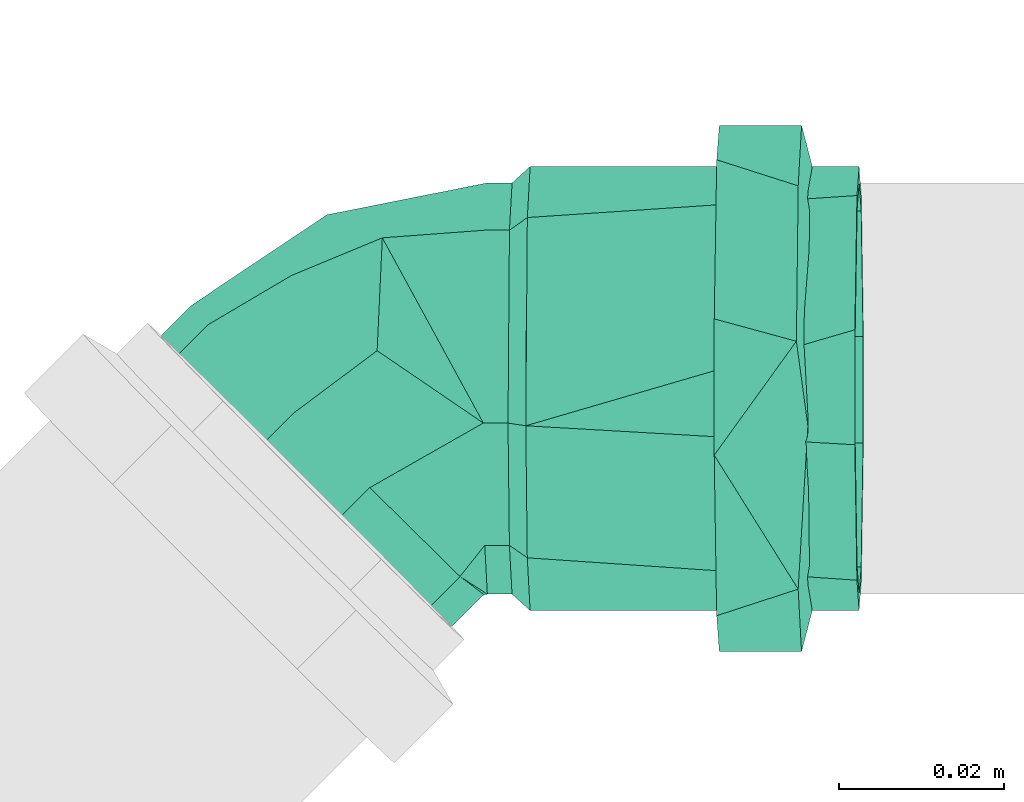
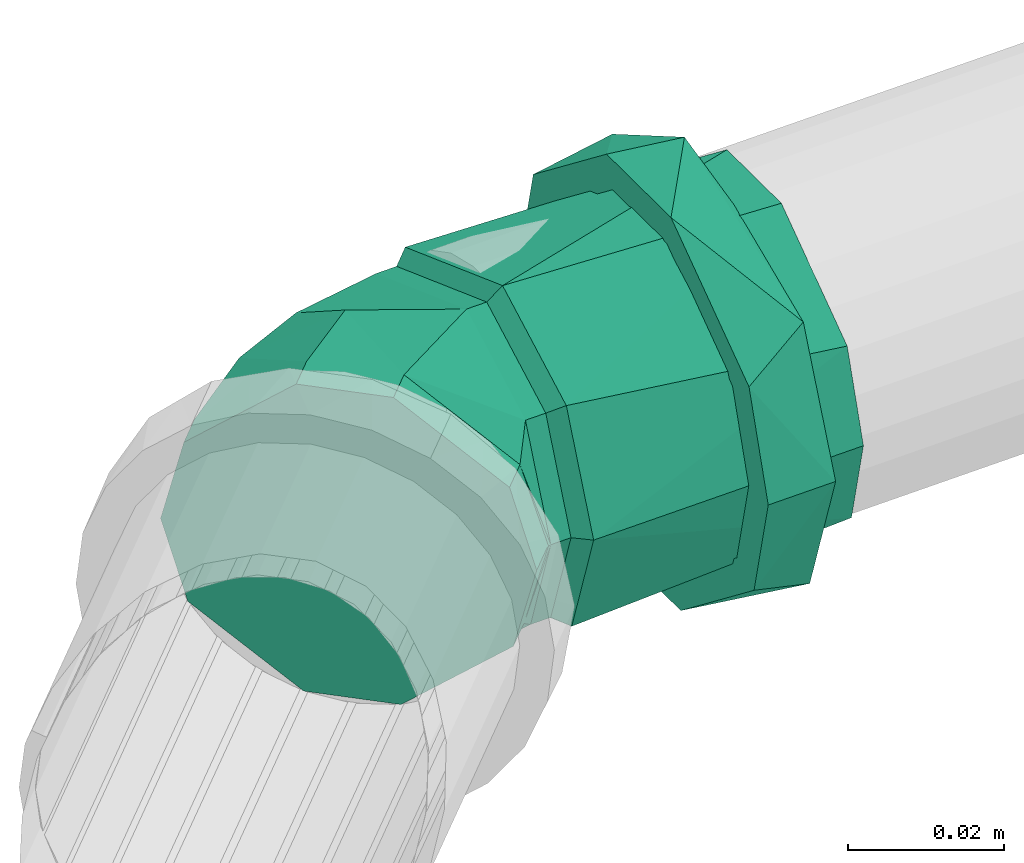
# One storey, part 26 of 589: 1 flow fitting.
"""IFC2X3 building model written with IfcOpenShell, lengths in millimetres."""

from ifc_helpers import new_model, entity, si_unit, converted_unit, derived_unit, direction, frame, origin, place, context, subcontext, project, spatial, faceted_brep, source, transform, mapped, material, type_object, type_shapes, element, save


model = new_model("IFC2X3")

# Units and contexts
model_context = context("Model", 3, precision=0.01, world=origin(), true_north=direction((6.123031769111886e-17, 1.0)))
body_context = subcontext(model_context, "Body", "Model", "MODEL_VIEW")
ifc_project = project(units=[si_unit("LENGTHUNIT", "METRE", prefix="MILLI"), si_unit("AREAUNIT", "SQUARE_METRE"), si_unit("VOLUMEUNIT", "CUBIC_METRE"), converted_unit("PLANEANGLEUNIT", "DEGREE", entity("IfcRatioMeasure", 0.017453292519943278), si_unit("PLANEANGLEUNIT", "RADIAN"), dimensions=[0, 0, 0, 0, 0, 0, 0]), si_unit("MASSUNIT", "GRAM", prefix="KILO"), derived_unit("MASSDENSITYUNIT", [(si_unit("MASSUNIT", "GRAM", prefix="KILO"), 1), (si_unit("LENGTHUNIT", "METRE"), -3)]), derived_unit("IONCONCENTRATIONUNIT", [(si_unit("MASSUNIT", "GRAM", prefix="KILO"), 1), (si_unit("LENGTHUNIT", "METRE"), -3)]), derived_unit("MOMENTOFINERTIAUNIT", [(si_unit("LENGTHUNIT", "METRE"), 4)]), si_unit("TIMEUNIT", "SECOND"), si_unit("FREQUENCYUNIT", "HERTZ"), si_unit("THERMODYNAMICTEMPERATUREUNIT", "DEGREE_CELSIUS"), derived_unit("THERMALTRANSMITTANCEUNIT", [(si_unit("MASSUNIT", "GRAM", prefix="KILO"), 1), (si_unit("THERMODYNAMICTEMPERATUREUNIT", "KELVIN"), -1), (si_unit("TIMEUNIT", "SECOND"), -3)]), derived_unit("THERMALCONDUCTANCEUNIT", [(si_unit("MASSUNIT", "GRAM", prefix="KILO"), 1), (si_unit("THERMODYNAMICTEMPERATUREUNIT", "KELVIN"), -1), (si_unit("TIMEUNIT", "SECOND"), -3), (si_unit("LENGTHUNIT", "METRE"), 1)]), derived_unit("VOLUMETRICFLOWRATEUNIT", [(si_unit("LENGTHUNIT", "METRE"), 3), (si_unit("TIMEUNIT", "SECOND"), -1)]), derived_unit("MASSFLOWRATEUNIT", [(si_unit("MASSUNIT", "GRAM", prefix="KILO"), 1), (si_unit("TIMEUNIT", "SECOND"), -1)]), derived_unit("ROTATIONALFREQUENCYUNIT", [(si_unit("TIMEUNIT", "SECOND"), -1)]), si_unit("ELECTRICCURRENTUNIT", "AMPERE"), si_unit("ELECTRICVOLTAGEUNIT", "VOLT"), si_unit("POWERUNIT", "WATT"), si_unit("FORCEUNIT", "NEWTON", prefix="KILO"), si_unit("ILLUMINANCEUNIT", "LUX"), si_unit("LUMINOUSFLUXUNIT", "LUMEN"), si_unit("LUMINOUSINTENSITYUNIT", "CANDELA"), derived_unit("USERDEFINED", [(si_unit("MASSUNIT", "GRAM", prefix="KILO"), -1), (si_unit("LENGTHUNIT", "METRE"), -2), (si_unit("TIMEUNIT", "SECOND"), 3), (si_unit("LUMINOUSFLUXUNIT", "LUMEN"), 1)]), derived_unit("USERDEFINED", [(si_unit("MASSUNIT", "GRAM", prefix="KILO"), 1), (si_unit("TIMEUNIT", "SECOND"), -3), (si_unit("LENGTHUNIT", "METRE"), 3), (si_unit("ELECTRICCURRENTUNIT", "AMPERE"), -2)]), derived_unit("SOUNDPOWERUNIT", [(si_unit("MASSUNIT", "GRAM", prefix="KILO"), 1), (si_unit("TIMEUNIT", "SECOND"), -3), (si_unit("LENGTHUNIT", "METRE"), 2)]), derived_unit("SOUNDPRESSUREUNIT", [(si_unit("MASSUNIT", "GRAM", prefix="KILO"), 1), (si_unit("LENGTHUNIT", "METRE"), -1), (si_unit("TIMEUNIT", "SECOND"), -2)]), derived_unit("LINEARVELOCITYUNIT", [(si_unit("LENGTHUNIT", "METRE"), 1), (si_unit("TIMEUNIT", "SECOND"), -1)]), si_unit("PRESSUREUNIT", "PASCAL"), derived_unit("USERDEFINED", [(si_unit("MASSUNIT", "GRAM", prefix="KILO"), 1), (si_unit("LENGTHUNIT", "METRE"), -2), (si_unit("TIMEUNIT", "SECOND"), -2)]), derived_unit("LINEARFORCEUNIT", [(si_unit("MASSUNIT", "GRAM", prefix="KILO"), 1), (si_unit("TIMEUNIT", "SECOND"), -2)]), derived_unit("PLANARFORCEUNIT", [(si_unit("MASSUNIT", "GRAM", prefix="KILO"), 1), (si_unit("LENGTHUNIT", "METRE"), -1), (si_unit("TIMEUNIT", "SECOND"), -2)]), derived_unit("SPECIFICHEATCAPACITYUNIT", [(si_unit("THERMODYNAMICTEMPERATUREUNIT", "KELVIN"), -1), (si_unit("LENGTHUNIT", "METRE"), 2), (si_unit("TIMEUNIT", "SECOND"), -2)]), derived_unit("HEATINGVALUEUNIT", [(si_unit("LENGTHUNIT", "METRE"), 2), (si_unit("TIMEUNIT", "SECOND"), -2)]), derived_unit("VAPORPERMEABILITYUNIT", [(si_unit("LENGTHUNIT", "METRE"), -1), (si_unit("TIMEUNIT", "SECOND"), 1)]), derived_unit("DYNAMICVISCOSITYUNIT", [(si_unit("MASSUNIT", "GRAM", prefix="KILO"), 1), (si_unit("TIMEUNIT", "SECOND"), -1), (si_unit("LENGTHUNIT", "METRE"), -1)]), derived_unit("THERMALEXPANSIONCOEFFICIENTUNIT", [(si_unit("THERMODYNAMICTEMPERATUREUNIT", "KELVIN"), -1)]), derived_unit("MODULUSOFELASTICITYUNIT", [(si_unit("MASSUNIT", "GRAM", prefix="KILO"), 1), (si_unit("LENGTHUNIT", "METRE"), -1), (si_unit("TIMEUNIT", "SECOND"), -2)]), derived_unit("ISOTHERMALMOISTURECAPACITYUNIT", [(si_unit("LENGTHUNIT", "METRE"), 3), (si_unit("MASSUNIT", "GRAM", prefix="KILO"), -1)]), derived_unit("MOISTUREDIFFUSIVITYUNIT", [(si_unit("TIMEUNIT", "SECOND"), -1), (si_unit("LENGTHUNIT", "METRE"), 2)])], contexts=[model_context])

# Site, building, storey
site_placement = place(None, origin())
site = spatial("IfcSite", under=ifc_project, at=site_placement, Name="Default", CompositionType="ELEMENT")
building_placement = place(site_placement, origin())
building = spatial("IfcBuilding", under=site, at=building_placement, CompositionType="ELEMENT")
storey_placement = place(building_placement, frame((0.0, 0.0, 100.0)))
storey = spatial("IfcBuildingStorey", under=building, at=storey_placement, Name="TÉRREO", CompositionType="ELEMENT", Elevation=100.0)

# Flow fitting
ifc_material = material(Name="PVC Série Normal")
pipe_fitting_type = type_object("IfcPipeFittingType", Name="PVC Esgoto_Joelho 45_90_Rodrigo MEP:a. Série Normal", PredefinedType="NOTDEFINED", material=ifc_material)
shared_shape = source(origin(), body_context, "Body", "Brep", [
    faceted_brep([(3.0399528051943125, 12.190087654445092, -24.1481456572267), (12.190287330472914, 3.0391520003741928, -24.14814565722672), (22.923928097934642, -7.695193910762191, -12.500000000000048), (25.292208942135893, -10.063630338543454, 0.0), (22.923928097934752, -7.6951939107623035, 12.499999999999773), (12.190287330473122, 3.039152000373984, 24.148145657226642), (3.039952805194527, 12.190087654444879, 24.14814565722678), (-7.693687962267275, 22.92443356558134, 12.500000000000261), (-10.061968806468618, 25.292869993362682, 0.0), (-7.693687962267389, 22.924433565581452, -12.499999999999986), (26.60100413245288, -4.01835942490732, -12.500000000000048), (15.867363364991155, 6.715986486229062, -24.14814565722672), (6.717028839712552, 15.86692214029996, -24.1481456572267), (-4.016611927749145, 26.601268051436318, -12.499999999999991), (-6.384892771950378, 28.969704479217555, 0.0), (-4.016611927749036, 26.60126805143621, 12.500000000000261), (6.717028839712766, 15.866922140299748, 24.14814565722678), (15.86736336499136, 6.715986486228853, 24.148145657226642), (26.60100413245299, -4.018359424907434, 12.499999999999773), (28.969284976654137, -6.386795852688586, 0.0)], [[[0, 1, 2, 3, 4, 5, 6, 7, 8, 9]], [[10, 11, 12, 13, 14, 15, 16, 17, 18, 19]], [[3, 19, 18, 4]], [[4, 18, 17, 5]], [[17, 16, 6, 5]], [[6, 16, 15, 7]], [[7, 15, 14, 8]], [[8, 14, 13, 9]], [[9, 13, 12, 0]], [[12, 11, 1, 0]], [[1, 11, 10, 2]], [[2, 10, 19, 3]]]),
    faceted_brep([(-55.969052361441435, -6.988114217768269, -26.07999730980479), (-55.969052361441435, -6.47047612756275, -24.14814565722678), (-55.969052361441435, 6.4704761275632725, -24.148145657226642), (-55.969052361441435, -23.382685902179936, -13.499999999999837), (-55.969052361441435, 6.988114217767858, -26.0799973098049), (-55.969052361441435, -21.650635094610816, -12.500000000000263), (-55.969052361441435, -25.0, 0.0), (-55.969052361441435, -27.0, 0.0), (-55.969052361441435, -21.650635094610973, 12.499999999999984), (-55.969052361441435, -23.382685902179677, 13.500000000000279), (-55.969052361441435, -6.470476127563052, 24.1481456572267), (-55.969052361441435, -6.98811421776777, 26.079997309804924), (-55.969052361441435, 6.470476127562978, 24.14814565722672), (-55.969052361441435, 6.988114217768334, 26.07999730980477), (-55.969052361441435, 21.650635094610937, 12.500000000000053), (-55.969052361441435, 23.38268590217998, 13.499999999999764), (-55.969052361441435, 27.0, 0.0), (-55.969052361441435, 25.0, 0.0), (-55.969052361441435, 23.382685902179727, -13.500000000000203), (-55.969052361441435, 21.6506350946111, -12.499999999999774), (-15.969052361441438, 21.650635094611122, -12.499999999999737), (-15.969052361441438, 25.0, 0.0), (-15.969052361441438, 6.4704761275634, -24.148145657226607), (-15.969052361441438, -6.470476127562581, -24.148145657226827), (-15.969052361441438, -21.650635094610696, -12.500000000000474), (-15.969052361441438, -25.0, 0.0), (-15.969052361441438, -21.65063509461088, 12.500000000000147), (-15.969052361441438, -6.470476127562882, 24.14814565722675), (-15.969052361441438, 6.470476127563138, 24.148145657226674), (-15.969052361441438, 21.650635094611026, 12.499999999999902), (-15.969052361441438, 27.0, 0.0), (-15.969052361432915, 20.682232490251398, 17.35641838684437), (-15.96905236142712, 4.685536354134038, 26.59033187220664), (-15.96905236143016, -20.686585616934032, 17.35122979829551), (-15.969052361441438, -27.0, 0.0), (-15.969052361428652, -8.000524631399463, 21.970780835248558), (-15.969052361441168, -20.686585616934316, -17.35122979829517), (-15.969052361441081, -4.6922062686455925, -26.589155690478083), (-15.96905236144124, 20.682232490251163, -17.356418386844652), (-15.969052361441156, 7.995013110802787, -21.972787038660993), (-13.769052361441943, -4.338459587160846, -24.620677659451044), (-13.76905236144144, 25.0, 0.0), (-13.769052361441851, 19.15424594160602, -16.065953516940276), (-13.769052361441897, 7.407893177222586, -20.343315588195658), (-13.769052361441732, -19.15021526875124, -16.070757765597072), (-13.769052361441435, -25.0, 0.0), (-13.769052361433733, -19.150215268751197, 16.07075776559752), (-13.769052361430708, -7.402789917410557, 20.34517318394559), (-13.769052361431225, 19.15424594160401, 16.065953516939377), (-13.769052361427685, 4.344635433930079, 24.61958860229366), (-10.769052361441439, 25.0, 0.0), (-10.769052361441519, 19.151286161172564, 16.069481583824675), (-10.769052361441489, 4.341396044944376, 24.62016003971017), (-10.769052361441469, -7.404832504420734, 20.344954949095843), (-10.769052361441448, -19.15106105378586, 16.069749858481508), (-10.769052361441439, -25.0, 0.0), (-10.769052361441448, -19.15106105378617, -16.069749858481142), (-10.769052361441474, -4.341051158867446, -24.62022085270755), (-10.769052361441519, 19.15128616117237, -16.069481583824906), (-10.769052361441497, 7.405117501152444, -20.344851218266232), (22.923928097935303, -7.695193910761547, -12.500000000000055), (12.190287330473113, 3.0391520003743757, -24.14814565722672), (3.039952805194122, 12.19008765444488, -24.1481456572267), (-7.6936879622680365, 22.924433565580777, -12.499999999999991), (-10.06196880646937, 25.292869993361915, 0.0), (-7.693687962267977, 22.924433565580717, 12.500000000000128), (3.0399528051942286, 12.190087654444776, 24.14814565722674), (12.190287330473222, 3.039152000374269, 24.148145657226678), (22.923928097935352, -7.6951939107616, 12.499999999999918), (25.29220894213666, -10.063630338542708, 0.0), (1.7065980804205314, -18.230977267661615, 15.057518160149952), (8.747028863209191, -21.118176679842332, 0.0), (12.76977479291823, -13.648688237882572, 14.852748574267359), (-3.6055022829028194, -23.57514244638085, 0.0), (2.158892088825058, -4.458908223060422, 23.97388512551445), (-10.386384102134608, 25.076114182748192, 0.0), (19.21915426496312, -14.121299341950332, 0.0), (12.766287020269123, -13.645706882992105, -14.858628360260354), (2.12136640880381, -4.51348200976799, -23.96332319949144), (1.7564215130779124, -18.243467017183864, -15.023571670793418)], [[[0, 1, 2]], [[1, 0, 3]], [[2, 4, 0]], [[3, 5, 1]], [[3, 6, 5]], [[6, 3, 7]], [[8, 6, 7]], [[8, 7, 9]], [[9, 10, 8]], [[9, 11, 10]], [[10, 11, 12]], [[13, 12, 11]], [[13, 14, 12]], [[14, 13, 15]], [[16, 14, 15]], [[17, 14, 16]], [[18, 17, 16]], [[18, 19, 17]], [[19, 18, 4]], [[4, 2, 19]], [[20, 21, 17, 19]], [[22, 20, 19, 2]], [[2, 1, 23, 22]], [[24, 23, 1, 5]], [[25, 24, 5, 6]], [[26, 25, 6, 8]], [[27, 26, 8, 10]], [[10, 12, 28, 27]], [[29, 28, 12, 14]], [[21, 29, 14, 17]], [[16, 15, 30]], [[15, 31, 30]], [[31, 15, 13]], [[31, 13, 32]], [[33, 11, 9]], [[34, 9, 7]], [[11, 33, 35, 32]], [[33, 9, 34]], [[11, 32, 13]], [[7, 3, 34]], [[3, 36, 34]], [[36, 3, 0]], [[36, 0, 37]], [[38, 4, 18]], [[30, 18, 16]], [[4, 38, 39, 37]], [[38, 18, 30]], [[4, 37, 0]], [[28, 29, 21, 20, 22, 23, 24, 25, 26, 27]], [[39, 40, 37]], [[41, 42, 30]], [[30, 42, 38]], [[38, 43, 39]], [[44, 45, 36]], [[38, 42, 43]], [[36, 37, 44]], [[34, 36, 45]], [[40, 39, 43]], [[44, 37, 40]], [[45, 46, 33]], [[33, 34, 45]], [[46, 35, 33]], [[46, 47, 35]], [[47, 32, 35]], [[48, 41, 30]], [[48, 31, 49]], [[31, 48, 30]], [[32, 47, 49]], [[49, 31, 32]], [[41, 48, 50]], [[48, 51, 50]], [[51, 48, 49]], [[51, 49, 52]], [[52, 47, 53]], [[46, 54, 53]], [[46, 45, 54]], [[49, 47, 52]], [[54, 45, 55]], [[47, 46, 53]], [[45, 44, 56]], [[45, 56, 55]], [[56, 44, 57]], [[58, 59, 43]], [[44, 40, 57]], [[40, 59, 57]], [[58, 43, 42]], [[42, 50, 58]], [[50, 42, 41]], [[59, 40, 43]], [[60, 61, 62, 63, 64, 65, 66, 67, 68, 69]], [[51, 52, 66]], [[70, 71, 72]], [[54, 55, 73]], [[70, 72, 74]], [[50, 65, 75]], [[51, 65, 50]], [[52, 70, 74]], [[76, 69, 68]], [[71, 70, 73]], [[72, 76, 68]], [[73, 70, 54]], [[76, 72, 71]], [[67, 72, 68]], [[75, 65, 64]], [[70, 52, 53, 54]], [[52, 74, 66]], [[66, 65, 51]], [[67, 74, 72]], [[67, 66, 74]], [[60, 76, 77]], [[73, 55, 56]], [[78, 58, 62]], [[78, 57, 59, 58]], [[79, 73, 56]], [[57, 78, 79]], [[61, 77, 78]], [[58, 50, 63]], [[75, 64, 63]], [[57, 79, 56]], [[60, 69, 76]], [[63, 62, 58]], [[79, 78, 77]], [[61, 60, 77]], [[76, 71, 77]], [[73, 79, 71]], [[79, 77, 71]], [[62, 61, 78]], [[63, 50, 75]]]),
    faceted_brep([(-38.969052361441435, 6.9881142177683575, -26.07999730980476), (-38.969052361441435, -6.988114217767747, -26.079997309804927), (-38.969052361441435, -8.282209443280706, -30.909626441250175), (-38.969052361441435, 8.28220944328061, -30.9096264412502), (-38.969052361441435, 23.38268590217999, -13.499999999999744), (-38.969052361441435, -27.712812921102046, -16.0), (-38.969052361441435, -23.38268590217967, -13.500000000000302), (-38.969052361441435, -27.0, 0.0), (-38.969052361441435, -32.0, 0.0), (-38.969052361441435, -23.382685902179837, 13.500000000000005), (-38.969052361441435, -27.712812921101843, 16.0), (-38.969052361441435, -6.988114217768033, 26.07999730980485), (-38.969052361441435, -8.28220944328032, 30.909626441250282), (-38.969052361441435, 6.988114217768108, 26.07999730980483), (-38.969052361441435, 8.282209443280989, 30.909626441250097), (-38.969052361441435, 23.382685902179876, 13.499999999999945), (-38.969052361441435, 27.712812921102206, 16.0), (-38.969052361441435, 32.0, 0.0), (-38.969052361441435, 27.0, 0.0), (-38.969052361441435, 27.712812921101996, -16.0), (-48.96905236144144, 27.0, 0.0), (-50.26905236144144, 27.0, 0.0), (-48.96905236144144, 25.191342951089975, -6.750000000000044), (-48.96905236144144, 23.38268590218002, -13.499999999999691), (-48.96905236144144, 19.284042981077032, -16.644999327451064), (-48.96905236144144, 15.185400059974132, -19.789998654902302), (-48.96905236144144, 11.086757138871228, -22.934997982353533), (-48.96905236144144, 6.988114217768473, -26.07999730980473), (-48.96905236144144, 0.0, -26.079997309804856), (-48.96905236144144, -6.988114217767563, -26.079997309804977), (-48.96905236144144, -11.086757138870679, -22.934997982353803), (-48.96905236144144, -15.185400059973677, -19.789998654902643), (-48.96905236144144, -19.284042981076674, -16.644999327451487), (-48.96905236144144, -23.382685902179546, -13.50000000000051), (-48.96905236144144, -25.191342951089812, -6.750000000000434), (-50.26905236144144, -27.0, 0.0), (-48.96905236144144, -27.0, 0.0), (-48.96905236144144, -25.19134295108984, 6.750000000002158), (-48.96905236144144, -23.382685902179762, 13.500000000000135), (-48.96905236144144, -19.284042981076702, 16.64499932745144), (-48.96905236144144, -15.185400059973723, 19.7899986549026), (-48.96905236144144, -11.086757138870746, 22.934997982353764), (-48.96905236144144, -6.988114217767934, 26.079997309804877), (-48.96905236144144, 0.0, 26.079997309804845), (-48.96905236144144, 6.988114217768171, 26.079997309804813), (-48.96905236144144, 11.086757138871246, 22.93499798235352), (-48.96905236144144, 15.185400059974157, 19.789998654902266), (-48.96905236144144, 19.284042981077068, 16.644999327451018), (-48.96905236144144, 23.382685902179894, 13.499999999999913), (-48.96905236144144, 25.19134295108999, 6.74999999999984), (-48.96905236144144, 32.0, 0.0), (-48.96905236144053, 24.512275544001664, 20.570569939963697), (-48.969052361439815, -5.561133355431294, 31.51307341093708), (-48.969052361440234, -24.51743480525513, 20.56442050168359), (-48.96905236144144, -32.0, 0.0), (-48.96905236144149, -24.51743480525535, -20.564420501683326), (-48.9690523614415, 5.553228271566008, -31.514467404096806), (-48.96905236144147, 24.512275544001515, -20.570569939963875), (-50.269052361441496, -23.84329280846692, -8.675614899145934), (-50.26905236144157, -20.686585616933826, -17.351229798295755), (-50.26905236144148, 23.841116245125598, -8.678209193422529), (-50.26905236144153, 20.6822324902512, -17.356418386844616), (-50.26905236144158, -12.689395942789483, -21.970192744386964), (-50.26905236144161, -4.692206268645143, -26.589155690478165), (-50.26905236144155, 14.338622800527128, -19.664602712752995), (-50.26905236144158, 1.6514034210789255, -24.280971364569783), (-50.26905236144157, 7.995013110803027, -21.97278703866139), (-50.26905236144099, 23.84111624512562, 8.678209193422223), (-50.26905236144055, 20.68223249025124, 17.35641838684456), (-50.269052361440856, -23.843292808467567, 8.675614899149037), (-50.26905236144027, -20.68658561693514, 17.351229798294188), (-50.269052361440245, 12.683884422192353, 21.973375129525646), (-50.26905236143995, 4.685536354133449, 26.590331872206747), (-50.26905236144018, -14.343555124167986, 19.66100531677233), (-50.269052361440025, -1.6574941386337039, 24.280556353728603), (-50.26905236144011, -8.000524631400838, 21.97078083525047)], [[[0, 1, 2]], [[2, 3, 0]], [[4, 0, 3]], [[5, 2, 1]], [[1, 6, 5]], [[6, 7, 5]], [[8, 5, 7]], [[8, 7, 9]], [[10, 8, 9]], [[9, 11, 10]], [[11, 12, 10]], [[13, 12, 11]], [[12, 13, 14]], [[13, 15, 14]], [[16, 14, 15]], [[16, 15, 17]], [[17, 15, 18]], [[18, 4, 19]], [[17, 18, 19]], [[3, 19, 4]], [[4, 18, 20, 21, 22, 23]], [[0, 4, 23, 24, 25, 26, 27]], [[0, 27, 28, 29, 1]], [[6, 1, 29, 30, 31, 32, 33]], [[7, 6, 33, 34, 35, 36]], [[9, 7, 36, 35, 37, 38]], [[11, 9, 38, 39, 40, 41, 42]], [[11, 42, 43, 44, 13]], [[15, 13, 44, 45, 46, 47, 48]], [[18, 15, 48, 49, 21, 20]], [[50, 51, 16]], [[50, 16, 17]], [[16, 51, 14]], [[51, 52, 14]], [[12, 52, 53]], [[10, 53, 54]], [[53, 10, 12]], [[10, 54, 8]], [[52, 12, 14]], [[54, 55, 5]], [[54, 5, 8]], [[5, 55, 2]], [[55, 56, 2]], [[3, 56, 57]], [[19, 57, 50]], [[57, 19, 3]], [[19, 50, 17]], [[56, 3, 2]], [[58, 33, 59]], [[23, 60, 61]], [[32, 31, 59, 33]], [[30, 29, 62, 31]], [[24, 23, 61, 25]], [[29, 28, 63]], [[26, 25, 64]], [[65, 63, 28]], [[31, 62, 59]], [[63, 62, 29]], [[60, 22, 21]], [[34, 58, 35]], [[66, 26, 64]], [[28, 27, 65]], [[27, 66, 65]], [[27, 26, 66]], [[64, 25, 61]], [[34, 33, 58]], [[60, 23, 22]], [[67, 48, 68]], [[38, 69, 70]], [[47, 46, 68, 48]], [[45, 44, 71, 46]], [[39, 38, 70, 40]], [[44, 43, 72]], [[41, 40, 73]], [[74, 72, 43]], [[46, 71, 68]], [[72, 71, 44]], [[69, 37, 35]], [[49, 67, 21]], [[75, 41, 73]], [[43, 42, 74]], [[42, 75, 74]], [[42, 41, 75]], [[73, 40, 70]], [[49, 48, 67]], [[69, 38, 37]], [[54, 35, 58, 59, 55]], [[55, 59, 62, 63]], [[55, 63, 56]], [[57, 61, 60, 21, 50]], [[57, 56, 61]], [[56, 63, 65, 66, 64, 61]], [[50, 21, 67, 68, 51]], [[51, 68, 71, 72]], [[51, 72, 52]], [[53, 70, 69, 35, 54]], [[53, 52, 70]], [[52, 72, 74, 75, 73, 70]]]),
])
type_shapes(pipe_fitting_type, [shared_shape])
flow_fitting_placement = place(storey_placement, frame((-8009.074355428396, -7702.352283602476, -125.71553023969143), z_axis=(-0.019995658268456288, 0.00585659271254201, 0.9997829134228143), x_axis=(-0.999800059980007, 0.0, -0.01999600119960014)))
element("IfcFlowFitting", 1, at=flow_fitting_placement, inside=storey, type_object=pipe_fitting_type, material=ifc_material, Name="PVC Esgoto_Joelho 45_90_Rodrigo MEP:a. Série Normal", ObjectType="PVC Esgoto_Joelho 45_90_Rodrigo MEP:a. Série Normal", context=body_context, shape_type="MappedRepresentation", body=[
    mapped(shared_shape, transform((0.0, 0.0, 0.0), scale=1.0)),
])

save(model, "model.ifc")
